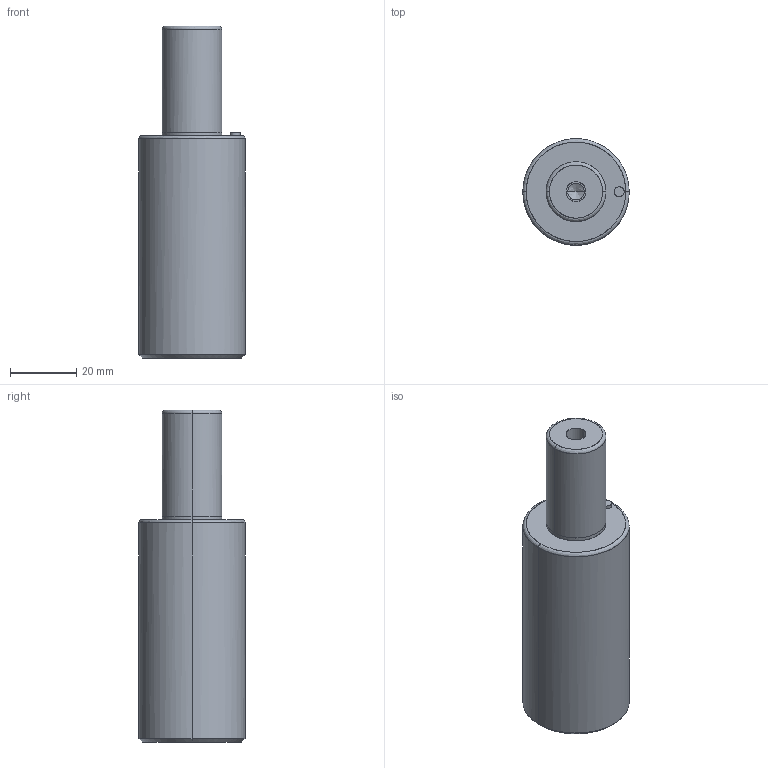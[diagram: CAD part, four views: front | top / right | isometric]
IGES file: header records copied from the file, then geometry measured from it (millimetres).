
Global section: file name: E:\UnigraphicsGraphicData\MISUMI_PRESS-PARTS\IGES\3d_gsc32-32_03824_r00.igs; native system: NX V5.0; preprocessor: UGS NX IGES V5.0; author: MISUMI; date: 20110105.160745; units: millimetre
Bounding box: 32 x 31.95 x 100 mm (x, y, z)
Surface area: 10493 mm2 (no closed solid volume)
Topology: 0 solids, 0 shells, 32 faces, 216 edges, 212 vertices
Faces by surface type: bspline 32
